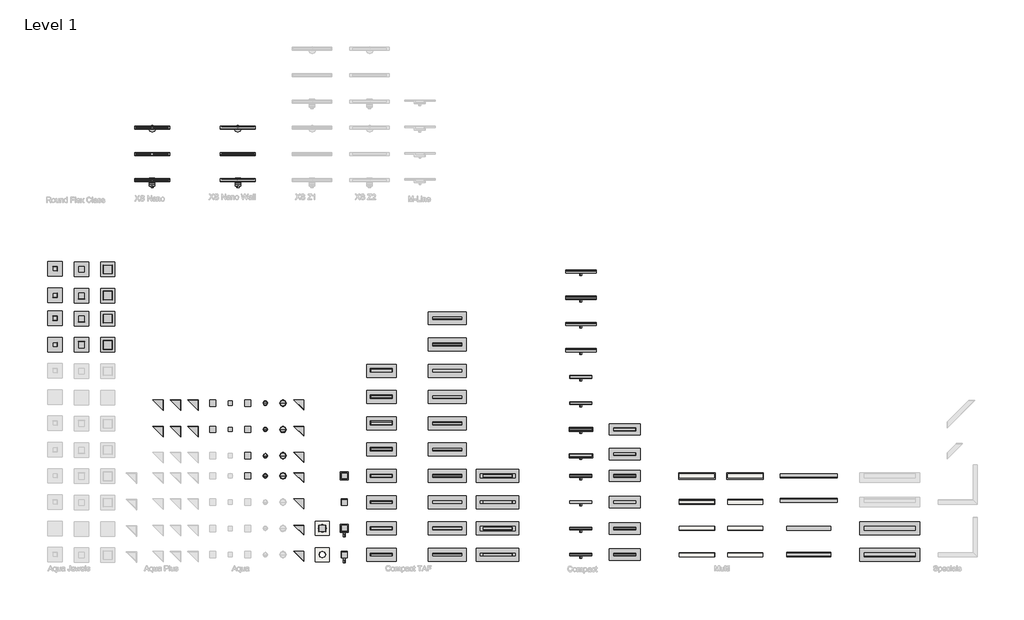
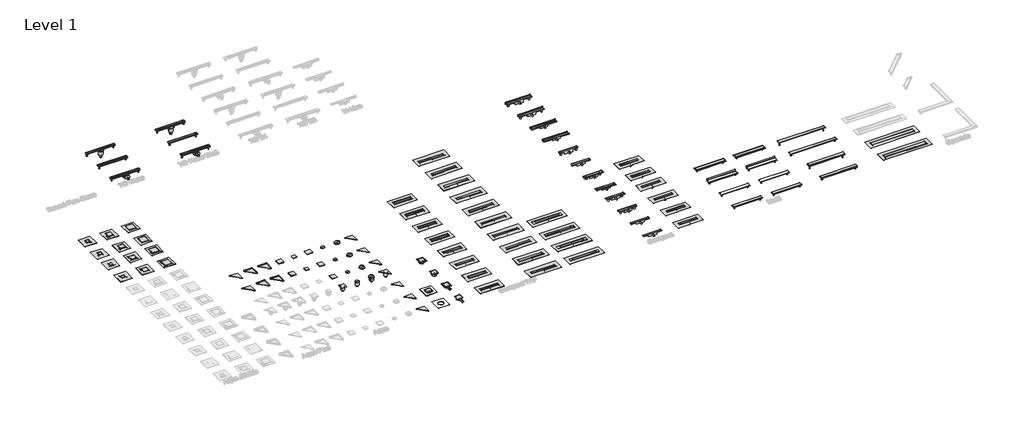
# One storey, part 2 of 23: 112 sanitary terminals, 18 coverings.
"""IFC4 building model written with IfcOpenShell, lengths in millimetres."""

from ifc_helpers import new_model, si_unit, origin, place, context, project, spatial, transform, mapped, element, save
from components import covering_949c216e, covering_52c8488e, covering_e9c5ec6c, covering_b1c8ad42, covering_8_tile_f43c0e9c, sanitary_terminal_2f80e022, sanitary_terminal_2ebfcd1c, sanitary_terminal_eb8b4586, sanitary_terminal_f8d560c6, sanitary_terminal_cf954fec, sanitary_terminal_c62dae5d, sanitary_terminal_9a77729b, sanitary_terminal_87b3114c, sanitary_terminal_e6825e24, sanitary_terminal_f435edd6, sanitary_terminal_ecf4810a, sanitary_terminal_20bd8035, sanitary_terminal_5c7f7aa6, sanitary_terminal_14ebe62b, sanitary_terminal_cd1ec674, sanitary_terminal_50c217ad, sanitary_terminal_e52f65bd, sanitary_terminal_b1b542f0, sanitary_terminal_1a364380, sanitary_terminal_6d434ef9, sanitary_terminal_b07f8d72, sanitary_terminal_18c5c034, sanitary_terminal_83d6f62a, sanitary_terminal_d9133679, sanitary_terminal_1823a797, sanitary_terminal_49c4bee3, compact_d3044acb, compact_a988ca50, compact_608fc20b, compact_45fd4abb, compact_89d7015a, compact_d6b970c3, compact_b74792c9, compact_6f6b42fc, compact_ff_9ca3e479, compact_ff_39878ad4, compact_ff_16e5568f, compact_ff_ca326670, compact_ff_tile_2c53a190, compact_ff_tile_d9a49791, compact_flange_e84be961, compact_flange_697ba35e, compact_taf_aa2868d5, compact_taf_09897acd, compact_taf_a320cd3e, compact_taf_2342890d, compact_taf_wall_cdf960c3, compact_taf_wall_d19b2d83, compact_taf_wall_0f2e0b1c, compact_taf_wall_d03a32f8, compact_tile_2c210a84, compact_tile_8fcec66e, compact_wall_94ad205f, compact_wall_42add6d5, compact_wall_7a272a64, compact_wall_831ec387, black_glass_10x10_94a9755f, black_glass_15x15_4ec12fde, black_glass_20x20_2d4f7b62, m2_trap_body_7347115e, multi_long_length_horizontal_outlet_low_40mm_4c622230, multi_taf_horizontal_outlet_low_40mm_1422f05b, multi_tile_horizontal_outlet_low_40mm_311f17a8, tile_10x10_58bf98e1, tile_15x15_8973f844, tile_20x20_2fca3c0a, xs_nano_9b7dcf74, xs_nano_wall_a90b67c6, xs_nano_wall_with_m2_vertical_outlet_9d345bf4, xs_nano_with_m2_vertical_outlet_db10e45d

model = new_model("IFC4")

# Units and contexts
model_context = context("Model", 3, world=origin())
ifc_project = project(units=[si_unit("LENGTHUNIT", "METRE", prefix="MILLI")], contexts=[model_context])

# Site, building, storey
site = spatial("IfcSite", under=ifc_project)
building = spatial("IfcBuilding", under=site)
storey = spatial("IfcBuildingStorey", under=building, Name="Level 1", Elevation=0.0)

# Coverings
placement = place(None, origin())
covering_shape = covering_949c216e(model_context)
element("IfcCovering", 1, ObjectType="Z_DO_NOT_USE_NLRS_PF_52_UN_Extension Set_Easydrain : NLRS_PLF_52_UN_Easy Drain verlengset_Easydrain", at=placement, inside=storey, context=model_context, shape_type="MappedRepresentation", body=[
    mapped(covering_shape, transform((33717.5, 7700.0, 0.0), x_axis=(1.0, 0.0, 0.0), y_axis=(0.0, 1.0, 0.0), z_axis=(0.0, 0.0, 1.0))),
])
element("IfcCovering", 2, ObjectType="Z_DO_NOT_USE_NLRS_PF_52_UN_Extension Set_Easydrain : NLRS_PLF_52_UN_Easy Drain verlengset_Easydrain", at=placement, inside=storey, context=model_context, shape_type="MappedRepresentation", body=[
    mapped(covering_shape, transform((33717.5, 8300.0, 0.0), x_axis=(1.0, 0.0, 0.0), y_axis=(0.0, 1.0, 0.0), z_axis=(0.0, 0.0, 1.0))),
])
element("IfcCovering", 3, ObjectType="Z_DO_NOT_USE_NLRS_PF_52_UN_Extension Set_Easydrain : NLRS_PLF_52_UN_Easy Drain verlengset_Easydrain", at=placement, inside=storey, context=model_context, shape_type="MappedRepresentation", body=[
    mapped(covering_shape, transform((33717.5, 8900.0, 0.0), x_axis=(1.0, 0.0, 0.0), y_axis=(0.0, 1.0, 0.0), z_axis=(0.0, 0.0, 1.0))),
])
element("IfcCovering", 4, ObjectType="Z_DO_NOT_USE_NLRS_PF_52_UN_Extension Set_Easydrain : NLRS_PLF_52_UN_Easy Drain verlengset_Easydrain", at=placement, inside=storey, context=model_context, shape_type="MappedRepresentation", body=[
    mapped(covering_shape, transform((33717.5, 9500.0, 0.0), x_axis=(1.0, 0.0, 0.0), y_axis=(0.0, 1.0, 0.0), z_axis=(0.0, 0.0, 1.0))),
])
covering_2_shape = covering_52c8488e(model_context)
element("IfcCovering", 5, ObjectType="Z_DO_NOT_USE_NLRS_PF_52_UN_Extension Set_Easydrain : NLRS_PLF_52_UN_Easy Drain verlengset_Easydrain", at=placement, inside=storey, context=model_context, shape_type="MappedRepresentation", body=[
    mapped(covering_2_shape, transform((33717.5, 10100.0, 0.0), x_axis=(1.0, 0.0, 0.0), y_axis=(0.0, 1.0, 0.0), z_axis=(0.0, 0.0, 1.0))),
])
element("IfcCovering", 6, ObjectType="Z_DO_NOT_USE_NLRS_PF_52_UN_Extension Set_Easydrain : NLRS_PLF_52_UN_Easy Drain verlengset_Easydrain", at=placement, inside=storey, context=model_context, shape_type="MappedRepresentation", body=[
    mapped(covering_2_shape, transform((33717.5, 10700.0, 0.0), x_axis=(1.0, 0.0, 0.0), y_axis=(0.0, 1.0, 0.0), z_axis=(0.0, 0.0, 1.0))),
])
element("IfcCovering", 7, ObjectType="Z_DO_NOT_USE_NLRS_PF_52_UN_Extension Set_Easydrain : NLRS_PLF_52_UN_Easy Drain verlengset_Easydrain", at=placement, inside=storey, context=model_context, shape_type="MappedRepresentation", body=[
    mapped(covering_2_shape, transform((33717.5, 11300.0, 0.0), x_axis=(1.0, 0.0, 0.0), y_axis=(0.0, 1.0, 0.0), z_axis=(0.0, 0.0, 1.0))),
])
element("IfcCovering", 8, ObjectType="Z_DO_NOT_USE_NLRS_PF_52_UN_Extension Set_Easydrain : NLRS_PLF_52_UN_Easy Drain verlengset_Easydrain", at=placement, inside=storey, context=model_context, shape_type="MappedRepresentation", body=[
    mapped(covering_2_shape, transform((33717.5, 11900.0, 0.0), x_axis=(1.0, 0.0, 0.0), y_axis=(0.0, 1.0, 0.0), z_axis=(0.0, 0.0, 1.0))),
])
covering_3_shape = covering_e9c5ec6c(model_context)
element("IfcCovering", 9, ObjectType="Z_DO_NOT_USE_NLRS_PF_52_UN_WPS Aqua Brilliant_Easydrain : Aqua Brilliant met tegelbakje", at=placement, inside=storey, context=model_context, shape_type="MappedRepresentation", body=[
    mapped(covering_3_shape, transform((32600.0, 8300.0, -15.0), x_axis=(1.0, 0.0, 0.0), y_axis=(0.0, 1.0, 0.0), z_axis=(0.0, 0.0, 1.0))),
])
element("IfcCovering", 10, ObjectType="Z_DO_NOT_USE_NLRS_PF_52_UN_WPS Aqua Brilliant_Easydrain : Aqua Brilliant met tegelbakje", at=placement, inside=storey, context=model_context, shape_type="MappedRepresentation", body=[
    mapped(covering_3_shape, transform((32600.0, 7700.0, -15.0), x_axis=(1.0, 0.0, 0.0), y_axis=(0.0, 1.0, 0.0), z_axis=(0.0, 0.0, 1.0))),
])
covering_4_shape = covering_b1c8ad42(model_context)
element("IfcCovering", 11, ObjectType="Z_DO_NOT_USE_NLRS_PF_52_UN_Multi Grate_Easydrain : 2 - Excenter", at=placement, inside=storey, context=model_context, shape_type="MappedRepresentation", body=[
    mapped(covering_4_shape, transform((41149.785592, 8300.0, 0.0), x_axis=(1.0, 0.0, 0.0), y_axis=(0.0, 1.0, 0.0), z_axis=(0.0, 0.0, 1.0))),
])
element("IfcCovering", 12, ObjectType="Z_DO_NOT_USE_NLRS_PF_52_UN_Multi Grate_Easydrain : 1 - Fixt", at=placement, inside=storey, context=model_context, shape_type="MappedRepresentation", body=[
    mapped(covering_4_shape, transform((41149.785592, 7700.0, 0.0), x_axis=(1.0, 0.0, 0.0), y_axis=(0.0, 1.0, 0.0), z_axis=(0.0, 0.0, 1.0))),
])
element("IfcCovering", 13, ObjectType="Z_DO_NOT_USE_NLRS_PF_52_UN_Multi Grate_Easydrain : 1 - Fixt", at=placement, inside=storey, context=model_context, shape_type="MappedRepresentation", body=[
    mapped(covering_4_shape, transform((42249.785592, 9500.0, 0.0), x_axis=(1.0, 0.0, 0.0), y_axis=(0.0, 1.0, 0.0), z_axis=(0.0, 0.0, 1.0))),
])
element("IfcCovering", 14, ObjectType="Z_DO_NOT_USE_NLRS_PF_52_UN_Multi Grate_Easydrain : 7 - Carré", at=placement, inside=storey, context=model_context, shape_type="MappedRepresentation", body=[
    mapped(covering_4_shape, transform((42249.785592, 8300.0, 0.0), x_axis=(1.0, 0.0, 0.0), y_axis=(0.0, 1.0, 0.0), z_axis=(0.0, 0.0, 1.0))),
])
element("IfcCovering", 15, ObjectType="Z_DO_NOT_USE_NLRS_PF_52_UN_Multi Grate_Easydrain : 3 - Outside", at=placement, inside=storey, context=model_context, shape_type="MappedRepresentation", body=[
    mapped(covering_4_shape, transform((41149.785592, 8900.0, 0.0), x_axis=(1.0, 0.0, 0.0), y_axis=(0.0, 1.0, 0.0), z_axis=(0.0, 0.0, 1.0))),
])
element("IfcCovering", 16, ObjectType="Z_DO_NOT_USE_NLRS_PF_52_UN_Multi Grate_Easydrain : 4 - Move", at=placement, inside=storey, context=model_context, shape_type="MappedRepresentation", body=[
    mapped(covering_4_shape, transform((41149.785592, 9500.0, 0.0), x_axis=(1.0, 0.0, 0.0), y_axis=(0.0, 1.0, 0.0), z_axis=(0.0, 0.0, 1.0))),
])
element("IfcCovering", 17, ObjectType="Z_DO_NOT_USE_NLRS_PF_52_UN_Multi Grate_Easydrain : 6 - Zero", at=placement, inside=storey, context=model_context, shape_type="MappedRepresentation", body=[
    mapped(covering_4_shape, transform((42249.785592, 7700.0, 0.0), x_axis=(1.0, 0.0, 0.0), y_axis=(0.0, 1.0, 0.0), z_axis=(0.0, 0.0, 1.0))),
])
covering_8_tile_shape = covering_8_tile_f43c0e9c(model_context)
element("IfcCovering", 18, ObjectType="Z_DO_NOT_USE_NLRS_PF_52_UN_Multi Grate_Easydrain : 8 - Tile", at=placement, inside=storey, context=model_context, shape_type="MappedRepresentation", body=[
    mapped(covering_8_tile_shape, transform((42249.785592, 8900.0, 0.0), x_axis=(1.0, 0.0, 0.0), y_axis=(0.0, 1.0, 0.0), z_axis=(0.0, 0.0, 1.0))),
])

# Sanitary terminals
sanitary_terminal_shape = sanitary_terminal_2f80e022(model_context)
element("IfcSanitaryTerminal", 19, ObjectType="NLRS_PF_52_UN_Aqua Delta_in_uitloop_Easydrain : Aqua Delta onderuitloop 50mm, zij-ingang 40mm", at=placement, inside=storey, context=model_context, shape_type="MappedRepresentation", body=[
    mapped(sanitary_terminal_shape, transform((32100.0, 10560.0, 0.0), x_axis=(1.0, 0.0, 0.0), y_axis=(0.0, 1.0, 0.0), z_axis=(0.0, 0.0, 1.0))),
])
element("IfcSanitaryTerminal", 20, ObjectType="NLRS_PF_52_UN_Aqua Delta_in_uitloop_Easydrain : Aqua Delta onderuitloop 50mm, zij-ingang 50mm", at=placement, inside=storey, context=model_context, shape_type="MappedRepresentation", body=[
    mapped(sanitary_terminal_shape, transform((32100.0, 11160.0, 0.0), x_axis=(1.0, 0.0, 0.0), y_axis=(0.0, 1.0, 0.0), z_axis=(0.0, 0.0, 1.0))),
])
element("IfcSanitaryTerminal", 21, ObjectType="NLRS_PF_52_UN_Aqua Delta_in_uitloop_Easydrain : Aqua Delta zijuitloop hoog 50mm, zij-ingang 40mm", at=placement, inside=storey, context=model_context, shape_type="MappedRepresentation", body=[
    mapped(sanitary_terminal_shape, transform((32100.0, 9960.0, 0.0), x_axis=(1.0, 0.0, 0.0), y_axis=(0.0, 1.0, 0.0), z_axis=(0.0, 0.0, 1.0))),
])
sanitary_terminal_2_shape = sanitary_terminal_2ebfcd1c(model_context)
element("IfcSanitaryTerminal", 22, ObjectType="NLRS_PF_52_UN_Aqua Plus Delta_in_uitloop_Easydrain : Aqua Plus Delta onderuitloop 50mm, zij-ingang 40mm", at=placement, inside=storey, context=model_context, shape_type="MappedRepresentation", body=[
    mapped(sanitary_terminal_2_shape, transform((28900.0, 10560.0, 0.0), x_axis=(1.0, 0.0, 0.0), y_axis=(0.0, 1.0, 0.0), z_axis=(0.0, 0.0, 1.0))),
])
element("IfcSanitaryTerminal", 23, ObjectType="NLRS_PF_52_UN_Aqua Plus Delta_in_uitloop_Easydrain : Aqua Plus Delta onderuitloop 50mm, zij-ingang 50mm", at=placement, inside=storey, context=model_context, shape_type="MappedRepresentation", body=[
    mapped(sanitary_terminal_2_shape, transform((28900.0, 11160.0, 0.0), x_axis=(1.0, 0.0, 0.0), y_axis=(0.0, 1.0, 0.0), z_axis=(0.0, 0.0, 1.0))),
])
sanitary_terminal_3_shape = sanitary_terminal_eb8b4586(model_context)
element("IfcSanitaryTerminal", 24, ObjectType="NLRS_PF_52_UN_Aqua Plus Quattro_in_uitloop_Easydrain : Aqua Plus Quattro onderuitloop 50mm, zij-ingang 40mm", at=placement, inside=storey, context=model_context, shape_type="MappedRepresentation", body=[
    mapped(sanitary_terminal_3_shape, transform((30100.0, 10560.0, 0.0), x_axis=(1.0, 0.0, 0.0), y_axis=(0.0, 1.0, 0.0), z_axis=(0.0, 0.0, 1.0))),
])
element("IfcSanitaryTerminal", 25, ObjectType="NLRS_PF_52_UN_Aqua Plus Quattro_in_uitloop_Easydrain : Aqua Plus Quattro onderuitloop 50mm, zij-ingang 50mm", at=placement, inside=storey, context=model_context, shape_type="MappedRepresentation", body=[
    mapped(sanitary_terminal_3_shape, transform((30100.0, 11160.0, 0.0), x_axis=(1.0, 0.0, 0.0), y_axis=(0.0, 1.0, 0.0), z_axis=(0.0, 0.0, 1.0))),
])
sanitary_terminal_4_shape = sanitary_terminal_f8d560c6(model_context)
element("IfcSanitaryTerminal", 26, ObjectType="NLRS_PF_52_UN_Aqua Quattro_in_uitloop_Easydrain : Aqua Quattro onderuitloop 50mm, zij-ingang 40mm", at=placement, inside=storey, context=model_context, shape_type="MappedRepresentation", body=[
    mapped(sanitary_terminal_4_shape, transform((30500.0, 10560.0, 0.0), x_axis=(1.0, 0.0, 0.0), y_axis=(0.0, 1.0, 0.0), z_axis=(0.0, 0.0, 1.0))),
])
element("IfcSanitaryTerminal", 27, ObjectType="NLRS_PF_52_UN_Aqua Quattro_in_uitloop_Easydrain : Aqua Quattro zijuitloop hoog 50mm, zij-ingang 40mm", at=placement, inside=storey, context=model_context, shape_type="MappedRepresentation", body=[
    mapped(sanitary_terminal_4_shape, transform((30500.0, 11160.0, 0.0), x_axis=(1.0, 0.0, 0.0), y_axis=(0.0, 1.0, 0.0), z_axis=(0.0, 0.0, 1.0))),
])
sanitary_terminal_5_shape = sanitary_terminal_cf954fec(model_context)
element("IfcSanitaryTerminal", 28, ObjectType="NLRS_PF_52_UN_Aqua Round_in_uitloop_Easydrain : Aqua Round onderuitloop 50mm, zij-ingang 40mm", at=placement, inside=storey, context=model_context, shape_type="MappedRepresentation", body=[
    mapped(sanitary_terminal_5_shape, transform((31300.0, 10560.0, 0.0), x_axis=(1.0, 0.0, 0.0), y_axis=(0.0, 1.0, 0.0), z_axis=(0.0, 0.0, 1.0))),
])
element("IfcSanitaryTerminal", 29, ObjectType="NLRS_PF_52_UN_Aqua Round_in_uitloop_Easydrain : Aqua Round onderuitloop 50mm, zij-ingang 50mm", at=placement, inside=storey, context=model_context, shape_type="MappedRepresentation", body=[
    mapped(sanitary_terminal_5_shape, transform((31300.0, 11160.0, 0.0), x_axis=(1.0, 0.0, 0.0), y_axis=(0.0, 1.0, 0.0), z_axis=(0.0, 0.0, 1.0))),
])
element("IfcSanitaryTerminal", 30, ObjectType="NLRS_PF_52_UN_Aqua Round_in_uitloop_Easydrain : Aqua Round zijuitloop hoog 50mm, zij-ingang 40mm", at=placement, inside=storey, context=model_context, shape_type="MappedRepresentation", body=[
    mapped(sanitary_terminal_5_shape, transform((31300.0, 9960.0, 0.0), x_axis=(1.0, 0.0, 0.0), y_axis=(0.0, 1.0, 0.0), z_axis=(0.0, 0.0, 1.0))),
])
sanitary_terminal_6_shape = sanitary_terminal_c62dae5d(model_context)
element("IfcSanitaryTerminal", 31, ObjectType="NLRS_PF_52_UN_Compact TAF Modulo Design_Easydrain : Compact TAF Modulo Design Z2", at=placement, inside=storey, context=model_context, shape_type="MappedRepresentation", body=[
    mapped(sanitary_terminal_6_shape, transform((36450.0, 7700.0, 0.0), x_axis=(1.0, 0.0, 0.0), y_axis=(0.0, 1.0, 0.0), z_axis=(0.0, 0.0, 1.0))),
])
sanitary_terminal_7_shape = sanitary_terminal_9a77729b(model_context)
element("IfcSanitaryTerminal", 32, ObjectType="NLRS_PF_52_UN_Compact TAF Modulo Design_Easydrain : Compact TAF Modulo Design Z4", at=placement, inside=storey, context=model_context, shape_type="MappedRepresentation", body=[
    mapped(sanitary_terminal_7_shape, transform((36450.0, 8300.0, 0.0), x_axis=(1.0, 0.0, 0.0), y_axis=(0.0, 1.0, 0.0), z_axis=(0.0, 0.0, 1.0))),
])
sanitary_terminal_8_shape = sanitary_terminal_87b3114c(model_context)
element("IfcSanitaryTerminal", 33, ObjectType="NLRS_PF_52_UN_Compact TAF Modulo_Easydrain : Compact TAF Modulo Classic", at=placement, inside=storey, context=model_context, shape_type="MappedRepresentation", body=[
    mapped(sanitary_terminal_8_shape, transform((35350.0, 7700.0, 0.0), x_axis=(1.0, 0.0, 0.0), y_axis=(0.0, 1.0, 0.0), z_axis=(0.0, 0.0, 1.0))),
])
element("IfcSanitaryTerminal", 34, ObjectType="NLRS_PF_52_UN_Compact TAF Modulo_Easydrain : Compact TAF Modulo Zero+ geborsteld RVS", at=placement, inside=storey, context=model_context, shape_type="MappedRepresentation", body=[
    mapped(sanitary_terminal_8_shape, transform((35350.0, 9500.0, 0.0), x_axis=(1.0, 0.0, 0.0), y_axis=(0.0, 1.0, 0.0), z_axis=(0.0, 0.0, 1.0))),
])
element("IfcSanitaryTerminal", 35, ObjectType="NLRS_PF_52_UN_Compact TAF Modulo_Easydrain : Compact TAF Modulo Zero+ verchroomd RVS", at=placement, inside=storey, context=model_context, shape_type="MappedRepresentation", body=[
    mapped(sanitary_terminal_8_shape, transform((35350.0, 10100.0, 0.0), x_axis=(1.0, 0.0, 0.0), y_axis=(0.0, 1.0, 0.0), z_axis=(0.0, 0.0, 1.0))),
])
sanitary_terminal_9_shape = sanitary_terminal_e6825e24(model_context)
element("IfcSanitaryTerminal", 36, ObjectType="NLRS_PF_52_UN_Compact TAF Modulo_Easydrain : Compact TAF Modulo Glas zwart glans", at=placement, inside=storey, context=model_context, shape_type="MappedRepresentation", body=[
    mapped(sanitary_terminal_9_shape, transform((35350.0, 8900.0, 0.0), x_axis=(1.0, 0.0, 0.0), y_axis=(0.0, 1.0, 0.0), z_axis=(0.0, 0.0, 1.0))),
])
element("IfcSanitaryTerminal", 37, ObjectType="NLRS_PF_52_UN_Compact TAF Modulo_Easydrain : Compact TAF Modulo Glas wit glans", at=placement, inside=storey, context=model_context, shape_type="MappedRepresentation", body=[
    mapped(sanitary_terminal_9_shape, transform((35350.0, 8300.0, 0.0), x_axis=(1.0, 0.0, 0.0), y_axis=(0.0, 1.0, 0.0), z_axis=(0.0, 0.0, 1.0))),
])
sanitary_terminal_10_shape = sanitary_terminal_f435edd6(model_context)
element("IfcSanitaryTerminal", 38, ObjectType="NLRS_PF_52_UN_Multi Long Length in_uitloop_Easydrain : Multi Long Length zijuitloop hoog 50mm, zij-ingang 40mm", at=placement, inside=storey, context=model_context, shape_type="MappedRepresentation", body=[
    mapped(sanitary_terminal_10_shape, transform((43299.785592, 9500.0, 0.0), x_axis=(1.0, 0.0, 0.0), y_axis=(0.0, 1.0, 0.0), z_axis=(0.0, 0.0, 1.0))),
])
sanitary_terminal_11_shape = sanitary_terminal_ecf4810a(model_context)
element("IfcSanitaryTerminal", 39, ObjectType="NLRS_PF_52_UN_XS Nano Wall_Easydrain : XS Nano Wall with M2 flat siphon", at=placement, inside=storey, context=model_context, shape_type="MappedRepresentation", body=[
    mapped(sanitary_terminal_11_shape, transform((30675.891218, 16850.0, 0.0), x_axis=(1.0, 0.0, 0.0), y_axis=(0.0, 1.0, 0.0), z_axis=(0.0, 0.0, 1.0))),
])
sanitary_terminal_12_shape = sanitary_terminal_20bd8035(model_context)
element("IfcSanitaryTerminal", 40, ObjectType="NLRS_PF_52_UN_XS Nano_Easydrain : XS Nano with M2 flat siphon", at=placement, inside=storey, context=model_context, shape_type="MappedRepresentation", body=[
    mapped(sanitary_terminal_12_shape, transform((28716.5225017, 16850.0, 0.0), x_axis=(1.0, 0.0, 0.0), y_axis=(0.0, 1.0, 0.0), z_axis=(0.0, 0.0, 1.0))),
])
sanitary_terminal_13_shape = sanitary_terminal_5c7f7aa6(model_context)
element("IfcSanitaryTerminal", 41, ObjectType="NLRS_PF_52_UN_Aqua Plus Delta_in_uitloop_Easydrain : Aqua Plus Delta onderuitloop 50mm, zij-ingang 40mm", at=placement, inside=storey, context=model_context, shape_type="MappedRepresentation", body=[
    mapped(sanitary_terminal_13_shape, transform((29300.0, 10560.0, 0.0), x_axis=(1.0, 0.0, 0.0), y_axis=(0.0, 1.0, 0.0), z_axis=(0.0, 0.0, 1.0))),
])
element("IfcSanitaryTerminal", 42, ObjectType="NLRS_PF_52_UN_Aqua Plus Delta_in_uitloop_Easydrain : Aqua Plus Delta onderuitloop 50mm, zij-ingang 50mm", at=placement, inside=storey, context=model_context, shape_type="MappedRepresentation", body=[
    mapped(sanitary_terminal_13_shape, transform((29300.0, 11160.0, 0.0), x_axis=(1.0, 0.0, 0.0), y_axis=(0.0, 1.0, 0.0), z_axis=(0.0, 0.0, 1.0))),
])
element("IfcSanitaryTerminal", 43, ObjectType="NLRS_PF_52_UN_Aqua Plus Delta_in_uitloop_Easydrain : Aqua Plus Delta onderuitloop 50mm, zij-ingang 40mm", at=placement, inside=storey, context=model_context, shape_type="MappedRepresentation", body=[
    mapped(sanitary_terminal_13_shape, transform((29700.0, 10560.0, 0.0), x_axis=(1.0, 0.0, 0.0), y_axis=(0.0, 1.0, 0.0), z_axis=(0.0, 0.0, 1.0))),
])
element("IfcSanitaryTerminal", 44, ObjectType="NLRS_PF_52_UN_Aqua Plus Delta_in_uitloop_Easydrain : Aqua Plus Delta onderuitloop 50mm, zij-ingang 50mm", at=placement, inside=storey, context=model_context, shape_type="MappedRepresentation", body=[
    mapped(sanitary_terminal_13_shape, transform((29700.0, 11160.0, 0.0), x_axis=(1.0, 0.0, 0.0), y_axis=(0.0, 1.0, 0.0), z_axis=(0.0, 0.0, 1.0))),
])
sanitary_terminal_14_shape = sanitary_terminal_14ebe62b(model_context)
element("IfcSanitaryTerminal", 45, ObjectType="NLRS_PF_52_UN_Aqua Quattro_in_uitloop_Easydrain : Aqua Quattro zijuitloop hoog 50mm, zij-ingang 40mm", at=placement, inside=storey, context=model_context, shape_type="MappedRepresentation", body=[
    mapped(sanitary_terminal_14_shape, transform((30900.0, 9960.0, 0.0), x_axis=(1.0, 0.0, 0.0), y_axis=(0.0, 1.0, 0.0), z_axis=(0.0, 0.0, 1.0))),
])
element("IfcSanitaryTerminal", 46, ObjectType="NLRS_PF_52_UN_Aqua Quattro_in_uitloop_Easydrain : Aqua Quattro zijuitloop hoog 50mm, zij-ingang 40mm", at=placement, inside=storey, context=model_context, shape_type="MappedRepresentation", body=[
    mapped(sanitary_terminal_14_shape, transform((30900.0, 11160.0, 0.0), x_axis=(1.0, 0.0, 0.0), y_axis=(0.0, 1.0, 0.0), z_axis=(0.0, 0.0, 1.0))),
])
element("IfcSanitaryTerminal", 47, ObjectType="NLRS_PF_52_UN_Aqua Quattro_in_uitloop_Easydrain : Aqua Quattro onderuitloop 50mm, zij-ingang 40mm", at=placement, inside=storey, context=model_context, shape_type="MappedRepresentation", body=[
    mapped(sanitary_terminal_14_shape, transform((30900.0, 10560.0, 0.0), x_axis=(1.0, 0.0, 0.0), y_axis=(0.0, 1.0, 0.0), z_axis=(0.0, 0.0, 1.0))),
])
sanitary_terminal_15_shape = sanitary_terminal_cd1ec674(model_context)
element("IfcSanitaryTerminal", 48, ObjectType="NLRS_PF_52_UN_Aqua Round_in_uitloop_Easydrain : Aqua Round zijuitloop hoog 50mm, zij-ingang 40mm", at=placement, inside=storey, context=model_context, shape_type="MappedRepresentation", body=[
    mapped(sanitary_terminal_15_shape, transform((31700.0, 9960.0, 0.0), x_axis=(1.0, 0.0, 0.0), y_axis=(0.0, 1.0, 0.0), z_axis=(0.0, 0.0, 1.0))),
])
element("IfcSanitaryTerminal", 49, ObjectType="NLRS_PF_52_UN_Aqua Round_in_uitloop_Easydrain : Aqua Round onderuitloop 50mm, zij-ingang 50mm", at=placement, inside=storey, context=model_context, shape_type="MappedRepresentation", body=[
    mapped(sanitary_terminal_15_shape, transform((31700.0, 11160.0, 0.0), x_axis=(1.0, 0.0, 0.0), y_axis=(0.0, 1.0, 0.0), z_axis=(0.0, 0.0, 1.0))),
])
element("IfcSanitaryTerminal", 50, ObjectType="NLRS_PF_52_UN_Aqua Round_in_uitloop_Easydrain : Aqua Round onderuitloop 50mm, zij-ingang 40mm", at=placement, inside=storey, context=model_context, shape_type="MappedRepresentation", body=[
    mapped(sanitary_terminal_15_shape, transform((31700.0, 10560.0, 0.0), x_axis=(1.0, 0.0, 0.0), y_axis=(0.0, 1.0, 0.0), z_axis=(0.0, 0.0, 1.0))),
])
sanitary_terminal_16_shape = sanitary_terminal_50c217ad(model_context)
element("IfcSanitaryTerminal", 51, ObjectType="NLRS_PF_52_UN_Compact TAF Modulo Design_Easydrain : Compact TAF Modulo Design Z2", at=placement, inside=storey, context=model_context, shape_type="MappedRepresentation", body=[
    mapped(sanitary_terminal_16_shape, transform((36450.0, 8900.0, 0.0), x_axis=(1.0, 0.0, 0.0), y_axis=(0.0, 1.0, 0.0), z_axis=(0.0, 0.0, 1.0))),
])
sanitary_terminal_17_shape = sanitary_terminal_e52f65bd(model_context)
element("IfcSanitaryTerminal", 52, ObjectType="NLRS_PF_52_UN_Compact TAF Modulo Design_Easydrain : Compact TAF Modulo Design Z4", at=placement, inside=storey, context=model_context, shape_type="MappedRepresentation", body=[
    mapped(sanitary_terminal_17_shape, transform((36450.0, 9500.0, 0.0), x_axis=(1.0, 0.0, 0.0), y_axis=(0.0, 1.0, 0.0), z_axis=(0.0, 0.0, 1.0))),
])
sanitary_terminal_18_shape = sanitary_terminal_b1b542f0(model_context)
element("IfcSanitaryTerminal", 53, ObjectType="NLRS_PF_52_UN_Compact TAF Modulo_Easydrain : Compact TAF Modulo Classic", at=placement, inside=storey, context=model_context, shape_type="MappedRepresentation", body=[
    mapped(sanitary_terminal_18_shape, transform((35350.0, 10700.0, 0.0), x_axis=(1.0, 0.0, 0.0), y_axis=(0.0, 1.0, 0.0), z_axis=(0.0, 0.0, 1.0))),
])
sanitary_terminal_19_shape = sanitary_terminal_1a364380(model_context)
element("IfcSanitaryTerminal", 54, ObjectType="NLRS_PF_52_UN_Compact TAF Modulo_Easydrain : Compact TAF Modulo Glas wit glans", at=placement, inside=storey, context=model_context, shape_type="MappedRepresentation", body=[
    mapped(sanitary_terminal_19_shape, transform((35350.0, 11300.0, 0.0), x_axis=(1.0, 0.0, 0.0), y_axis=(0.0, 1.0, 0.0), z_axis=(0.0, 0.0, 1.0))),
])
element("IfcSanitaryTerminal", 55, ObjectType="NLRS_PF_52_UN_Compact TAF Modulo_Easydrain : Compact TAF Modulo Glas zwart glans", at=placement, inside=storey, context=model_context, shape_type="MappedRepresentation", body=[
    mapped(sanitary_terminal_19_shape, transform((35350.0, 11900.0, 0.0), x_axis=(1.0, 0.0, 0.0), y_axis=(0.0, 1.0, 0.0), z_axis=(0.0, 0.0, 1.0))),
])
element("IfcSanitaryTerminal", 56, ObjectType="NLRS_PF_52_UN_Compact TAF Modulo_Easydrain : Compact TAF Modulo Zero+ geborsteld RVS", at=placement, inside=storey, context=model_context, shape_type="MappedRepresentation", body=[
    mapped(sanitary_terminal_18_shape, transform((35350.0, 12500.0, 0.0), x_axis=(1.0, 0.0, 0.0), y_axis=(0.0, 1.0, 0.0), z_axis=(0.0, 0.0, 1.0))),
])
element("IfcSanitaryTerminal", 57, ObjectType="NLRS_PF_52_UN_Compact TAF Modulo_Easydrain : Compact TAF Modulo Zero+ verchroomd RVS", at=placement, inside=storey, context=model_context, shape_type="MappedRepresentation", body=[
    mapped(sanitary_terminal_18_shape, transform((35350.0, 13100.0, 0.0), x_axis=(1.0, 0.0, 0.0), y_axis=(0.0, 1.0, 0.0), z_axis=(0.0, 0.0, 1.0))),
])
sanitary_terminal_20_shape = sanitary_terminal_6d434ef9(model_context)
element("IfcSanitaryTerminal", 58, ObjectType="NLRS_PF_52_UN_Multi in_uitloop_Easydrain : Multi zijuitloop hoog 50mm, zij-ingang 40mm", at=placement, inside=storey, context=model_context, shape_type="MappedRepresentation", body=[
    mapped(sanitary_terminal_20_shape, transform((42099.785592, 7700.0, 0.0), x_axis=(1.0, 0.0, 0.0), y_axis=(0.0, 1.0, 0.0), z_axis=(0.0, 0.0, 1.0))),
])
element("IfcSanitaryTerminal", 59, ObjectType="NLRS_PF_52_UN_Multi in_uitloop_Easydrain : Multi zijuitloop hoog 50mm, zij-ingang 40mm", at=placement, inside=storey, context=model_context, shape_type="MappedRepresentation", body=[
    mapped(sanitary_terminal_20_shape, transform((42099.785592, 8300.0, 0.0), x_axis=(1.0, 0.0, 0.0), y_axis=(0.0, 1.0, 0.0), z_axis=(0.0, 0.0, 1.0))),
])
sanitary_terminal_21_shape = sanitary_terminal_b07f8d72(model_context)
element("IfcSanitaryTerminal", 60, ObjectType="NLRS_PF_52_UN_Multi in_uitloop_Easydrain : Multi zijuitloop hoog 50mm, zij-ingang 40mm", at=placement, inside=storey, context=model_context, shape_type="MappedRepresentation", body=[
    mapped(sanitary_terminal_21_shape, transform((42099.785592, 8900.0, 0.0), x_axis=(1.0, 0.0, 0.0), y_axis=(0.0, 1.0, 0.0), z_axis=(0.0, 0.0, 1.0))),
])
sanitary_terminal_22_shape = sanitary_terminal_18c5c034(model_context)
element("IfcSanitaryTerminal", 61, ObjectType="NLRS_PF_52_UN_Multi in_uitloop_Easydrain : Multi zijuitloop hoog 50mm, zij-ingang 40mm", at=placement, inside=storey, context=model_context, shape_type="MappedRepresentation", body=[
    mapped(sanitary_terminal_22_shape, transform((42099.785592, 9500.0, 0.0), x_axis=(1.0, 0.0, 0.0), y_axis=(0.0, 1.0, 0.0), z_axis=(0.0, 0.0, 1.0))),
])
sanitary_terminal_23_shape = sanitary_terminal_83d6f62a(model_context)
element("IfcSanitaryTerminal", 62, ObjectType="NLRS_PF_52_UN_Multi TAF in_uitloop_Easydrain : Multi TAF zijuitloop hoog 50mm, zij-ingang 40mm", at=placement, inside=storey, context=model_context, shape_type="MappedRepresentation", body=[
    mapped(sanitary_terminal_23_shape, transform((45199.785592, 8300.0, 0.0), x_axis=(1.0, 0.0, 0.0), y_axis=(0.0, 1.0, 0.0), z_axis=(0.0, 0.0, 1.0))),
])
sanitary_terminal_24_shape = sanitary_terminal_d9133679(model_context)
element("IfcSanitaryTerminal", 63, ObjectType="NLRS_PF_52_UN_Multi Tile in_uitloop_Easydrain : Multi Tile zijuitloop hoog 50mm, zij-ingang 40mm", at=placement, inside=storey, context=model_context, shape_type="MappedRepresentation", body=[
    mapped(sanitary_terminal_24_shape, transform((43449.785592, 8300.0, 0.0), x_axis=(1.0, 0.0, 0.0), y_axis=(0.0, 1.0, 0.0), z_axis=(0.0, 0.0, 1.0))),
])
sanitary_terminal_25_shape = sanitary_terminal_1823a797(model_context)
element("IfcSanitaryTerminal", 64, ObjectType="NLRS_PF_52_UN_Aqua Brilliant_Easydrain : Brilliant onderuitloop 50mm", at=placement, inside=storey, context=model_context, shape_type="MappedRepresentation", body=[
    mapped(sanitary_terminal_25_shape, transform((32600.0, 8300.0, 0.0), x_axis=(1.0, 0.0, 0.0), y_axis=(0.0, 1.0, 0.0), z_axis=(0.0, 0.0, 1.0))),
])
sanitary_terminal_26_shape = sanitary_terminal_49c4bee3(model_context)
element("IfcSanitaryTerminal", 65, ObjectType="Z_DO_NOT_USE_NLRS_PF_52_UN_Multi sifon uitloop_Easydrain : onderuitloop 50mm", at=placement, inside=storey, context=model_context, shape_type="MappedRepresentation", body=[
    mapped(sanitary_terminal_26_shape, transform((32100.0, 9500.0, -14.0), x_axis=(1.0, 0.0, 0.0), y_axis=(0.0, 1.0, 0.0), z_axis=(0.0, 0.0, 1.0))),
])
element("IfcSanitaryTerminal", 66, ObjectType="Z_DO_NOT_USE_NLRS_PF_52_UN_Multi sifon uitloop_Easydrain : onderuitloop 50mm", at=placement, inside=storey, context=model_context, shape_type="MappedRepresentation", body=[
    mapped(sanitary_terminal_26_shape, transform((30900.0, 9500.0, -11.0), x_axis=(1.0, 0.0, 0.0), y_axis=(0.0, 1.0, 0.0), z_axis=(0.0, 0.0, 1.0))),
])
element("IfcSanitaryTerminal", 67, ObjectType="Z_DO_NOT_USE_NLRS_PF_52_UN_Multi sifon uitloop_Easydrain : onderuitloop 50mm", at=placement, inside=storey, context=model_context, shape_type="MappedRepresentation", body=[
    mapped(sanitary_terminal_26_shape, transform((31300.0, 9500.0, -11.0), x_axis=(1.0, 0.0, 0.0), y_axis=(0.0, 1.0, 0.0), z_axis=(0.0, 0.0, 1.0))),
])
element("IfcSanitaryTerminal", 68, ObjectType="Z_DO_NOT_USE_NLRS_PF_52_UN_Multi sifon uitloop_Easydrain : onderuitloop 50mm", at=placement, inside=storey, context=model_context, shape_type="MappedRepresentation", body=[
    mapped(sanitary_terminal_26_shape, transform((31700.0, 9500.0, -18.0), x_axis=(1.0, 0.0, 0.0), y_axis=(0.0, 1.0, 0.0), z_axis=(0.0, 0.0, 1.0))),
])
element("IfcSanitaryTerminal", 69, ObjectType="NLRS_PF_52_UN_Aqua Delta_uitloop_Easydrain : Aqua Delta horizontal outlet high 50mm", at=placement, inside=storey, context=model_context, shape_type="MappedRepresentation", body=[
    mapped(sanitary_terminal_shape, transform((32100.0, 8900.0, 0.0), x_axis=(1.0, 0.0, 0.0), y_axis=(0.0, 1.0, 0.0), z_axis=(0.0, 0.0, 1.0))),
])
element("IfcSanitaryTerminal", 70, ObjectType="NLRS_PF_52_UN_Aqua Delta_uitloop_Easydrain : Aqua Delta horizontal outlet low 40mm", at=placement, inside=storey, context=model_context, shape_type="MappedRepresentation", body=[
    mapped(sanitary_terminal_shape, transform((32100.0, 7700.0, 0.0), x_axis=(1.0, 0.0, 0.0), y_axis=(0.0, 1.0, 0.0), z_axis=(0.0, 0.0, 1.0))),
])
element("IfcSanitaryTerminal", 71, ObjectType="NLRS_PF_52_UN_Aqua Delta_uitloop_Easydrain : Aqua Delta horizontal outlet low 50mm", at=placement, inside=storey, context=model_context, shape_type="MappedRepresentation", body=[
    mapped(sanitary_terminal_shape, transform((32100.0, 8300.0, 0.0), x_axis=(1.0, 0.0, 0.0), y_axis=(0.0, 1.0, 0.0), z_axis=(0.0, 0.0, 1.0))),
])
element("IfcSanitaryTerminal", 72, ObjectType="NLRS_PF_52_UN_Aqua Delta_uitloop_Easydrain : Aqua Delta vertical outlet 50mm", at=placement, inside=storey, context=model_context, shape_type="MappedRepresentation", body=[
    mapped(sanitary_terminal_shape, transform((32100.0, 9500.0, 0.0), x_axis=(1.0, 0.0, 0.0), y_axis=(0.0, 1.0, 0.0), z_axis=(0.0, 0.0, 1.0))),
])
element("IfcSanitaryTerminal", 73, ObjectType="NLRS_PF_52_UN_Aqua Quattro_uitloop_Easydrain : Aqua Quattro Vertical Outlet 50mm", at=placement, inside=storey, context=model_context, shape_type="MappedRepresentation", body=[
    mapped(sanitary_terminal_14_shape, transform((30900.0, 9500.0, 0.0), x_axis=(1.0, 0.0, 0.0), y_axis=(0.0, 1.0, 0.0), z_axis=(0.0, 0.0, 1.0))),
])
element("IfcSanitaryTerminal", 74, ObjectType="NLRS_PF_52_UN_Aqua Round_uitloop_Easydrain : Aqua Round Vertical Outlet 50mm", at=placement, inside=storey, context=model_context, shape_type="MappedRepresentation", body=[
    mapped(sanitary_terminal_5_shape, transform((31300.0, 9500.0, 0.0), x_axis=(1.0, 0.0, 0.0), y_axis=(0.0, 1.0, 0.0), z_axis=(0.0, 0.0, 1.0))),
])
element("IfcSanitaryTerminal", 75, ObjectType="NLRS_PF_52_UN_Aqua Round_uitloop_Easydrain : Aqua Round Vertical Outlet 50mm", at=placement, inside=storey, context=model_context, shape_type="MappedRepresentation", body=[
    mapped(sanitary_terminal_15_shape, transform((31700.0, 9500.0, 0.0), x_axis=(1.0, 0.0, 0.0), y_axis=(0.0, 1.0, 0.0), z_axis=(0.0, 0.0, 1.0))),
])
compact_shape = compact_d3044acb(model_context)
element("IfcSanitaryTerminal", 76, ObjectType="NLRS_PF_52_UN_Aqua Compact_Easydrain : Compact", at=placement, inside=storey, context=model_context, shape_type="MappedRepresentation", body=[
    mapped(compact_shape, transform((33100.0, 7700.0, 0.0), x_axis=(1.0, 0.0, 0.0), y_axis=(0.0, 1.0, 0.0), z_axis=(0.0, 0.0, 1.0))),
])
compact_2_shape = compact_a988ca50(model_context)
element("IfcSanitaryTerminal", 77, ObjectType="NLRS_PF_52_UN_Compact_Easydrain : Compact", at=placement, inside=storey, context=model_context, shape_type="MappedRepresentation", body=[
    mapped(compact_2_shape, transform((38499.785592, 7700.0, 0.0), x_axis=(1.0, 0.0, 0.0), y_axis=(0.0, 1.0, 0.0), z_axis=(0.0, 0.0, 1.0))),
])
compact_3_shape = compact_608fc20b(model_context)
element("IfcSanitaryTerminal", 78, ObjectType="NLRS_PF_52_UN_Compact_Easydrain : Compact", at=placement, inside=storey, context=model_context, shape_type="MappedRepresentation", body=[
    mapped(compact_3_shape, transform((38499.785592, 8300.0, 0.0), x_axis=(1.0, 0.0, 0.0), y_axis=(0.0, 1.0, 0.0), z_axis=(0.0, 0.0, 1.0))),
])
compact_4_shape = compact_45fd4abb(model_context)
element("IfcSanitaryTerminal", 79, ObjectType="NLRS_PF_52_UN_Compact_Easydrain : Compact", at=placement, inside=storey, context=model_context, shape_type="MappedRepresentation", body=[
    mapped(compact_4_shape, transform((38499.785592, 8900.0, 0.0), x_axis=(1.0, 0.0, 0.0), y_axis=(0.0, 1.0, 0.0), z_axis=(0.0, 0.0, 1.0))),
])
compact_5_shape = compact_89d7015a(model_context)
element("IfcSanitaryTerminal", 80, ObjectType="NLRS_PF_52_UN_Compact_Easydrain : Compact", at=placement, inside=storey, context=model_context, shape_type="MappedRepresentation", body=[
    mapped(compact_5_shape, transform((38499.785592, 9500.0, 0.0), x_axis=(1.0, 0.0, 0.0), y_axis=(0.0, 1.0, 0.0), z_axis=(0.0, 0.0, 1.0))),
])
compact_6_shape = compact_d6b970c3(model_context)
element("IfcSanitaryTerminal", 81, ObjectType="NLRS_PF_52_UN_Aqua Compact_Easydrain : Compact", at=placement, inside=storey, context=model_context, shape_type="MappedRepresentation", body=[
    mapped(compact_6_shape, transform((33100.0, 8300.0, 0.0), x_axis=(1.0, 0.0, 0.0), y_axis=(0.0, 1.0, 0.0), z_axis=(0.0, 0.0, 1.0))),
])
compact_7_shape = compact_b74792c9(model_context)
element("IfcSanitaryTerminal", 82, ObjectType="NLRS_PF_52_UN_Aqua Compact_Easydrain : Compact", at=placement, inside=storey, context=model_context, shape_type="MappedRepresentation", body=[
    mapped(compact_7_shape, transform((33100.0, 8900.0, 0.0), x_axis=(1.0, 0.0, 0.0), y_axis=(0.0, 1.0, 0.0), z_axis=(0.0, 0.0, 1.0))),
])
compact_8_shape = compact_6f6b42fc(model_context)
element("IfcSanitaryTerminal", 83, ObjectType="NLRS_PF_52_UN_Aqua Compact_Easydrain : Compact", at=placement, inside=storey, context=model_context, shape_type="MappedRepresentation", body=[
    mapped(compact_8_shape, transform((33100.0, 9500.0, 0.0), x_axis=(1.0, 0.0, 0.0), y_axis=(0.0, 1.0, 0.0), z_axis=(0.0, 0.0, 1.0))),
])
compact_ff_shape = compact_ff_9ca3e479(model_context)
element("IfcSanitaryTerminal", 84, ObjectType="NLRS_PF_52_UN_Compact_Easydrain : Compact FF", at=placement, inside=storey, context=model_context, shape_type="MappedRepresentation", body=[
    mapped(compact_ff_shape, transform((39499.785592, 7700.0, 0.0), x_axis=(1.0, 0.0, 0.0), y_axis=(0.0, 1.0, 0.0), z_axis=(0.0, 0.0, 1.0))),
])
compact_ff_2_shape = compact_ff_39878ad4(model_context)
element("IfcSanitaryTerminal", 85, ObjectType="NLRS_PF_52_UN_Compact_Easydrain : Compact FF", at=placement, inside=storey, context=model_context, shape_type="MappedRepresentation", body=[
    mapped(compact_ff_2_shape, transform((39499.785592, 8300.0, 0.0), x_axis=(1.0, 0.0, 0.0), y_axis=(0.0, 1.0, 0.0), z_axis=(0.0, 0.0, 1.0))),
])
compact_ff_3_shape = compact_ff_16e5568f(model_context)
element("IfcSanitaryTerminal", 86, ObjectType="NLRS_PF_52_UN_Compact_Easydrain : Compact FF", at=placement, inside=storey, context=model_context, shape_type="MappedRepresentation", body=[
    mapped(compact_ff_3_shape, transform((39499.785592, 8900.0, 0.0), x_axis=(1.0, 0.0, 0.0), y_axis=(0.0, 1.0, 0.0), z_axis=(0.0, 0.0, 1.0))),
])
compact_ff_4_shape = compact_ff_ca326670(model_context)
element("IfcSanitaryTerminal", 87, ObjectType="NLRS_PF_52_UN_Compact_Easydrain : Compact FF", at=placement, inside=storey, context=model_context, shape_type="MappedRepresentation", body=[
    mapped(compact_ff_4_shape, transform((39499.785592, 9500.0, 0.0), x_axis=(1.0, 0.0, 0.0), y_axis=(0.0, 1.0, 0.0), z_axis=(0.0, 0.0, 1.0))),
])
compact_ff_tile_shape = compact_ff_tile_2c53a190(model_context)
element("IfcSanitaryTerminal", 88, ObjectType="NLRS_PF_52_UN_Compact Tile_Easydrain : Compact FF Tile", at=placement, inside=storey, context=model_context, shape_type="MappedRepresentation", body=[
    mapped(compact_ff_tile_shape, transform((39499.785592, 10560.0, 0.0), x_axis=(1.0, 0.0, 0.0), y_axis=(0.0, 1.0, 0.0), z_axis=(0.0, 0.0, 1.0))),
])
compact_ff_tile_2_shape = compact_ff_tile_d9a49791(model_context)
element("IfcSanitaryTerminal", 89, ObjectType="NLRS_PF_52_UN_Compact Tile_Easydrain : Compact FF Tile", at=placement, inside=storey, context=model_context, shape_type="MappedRepresentation", body=[
    mapped(compact_ff_tile_2_shape, transform((39499.785592, 10000.0, 0.0), x_axis=(1.0, 0.0, 0.0), y_axis=(0.0, 1.0, 0.0), z_axis=(0.0, 0.0, 1.0))),
])
compact_flange_shape = compact_flange_e84be961(model_context)
element("IfcSanitaryTerminal", 90, ObjectType="NLRS_PF_52_UN_Compact_Easydrain : Compact Flange", at=placement, inside=storey, context=model_context, shape_type="MappedRepresentation", body=[
    mapped(compact_flange_shape, transform((38499.785592, 9960.0, 0.0), x_axis=(1.0, 0.0, 0.0), y_axis=(0.0, 1.0, 0.0), z_axis=(0.0, 0.0, 1.0))),
])
compact_flange_2_shape = compact_flange_697ba35e(model_context)
element("IfcSanitaryTerminal", 91, ObjectType="NLRS_PF_52_UN_Compact_Easydrain : Compact Flange", at=placement, inside=storey, context=model_context, shape_type="MappedRepresentation", body=[
    mapped(compact_flange_2_shape, transform((38499.785592, 10560.0, 0.0), x_axis=(1.0, 0.0, 0.0), y_axis=(0.0, 1.0, 0.0), z_axis=(0.0, 0.0, 1.0))),
])
compact_taf_shape = compact_taf_aa2868d5(model_context)
element("IfcSanitaryTerminal", 92, ObjectType="NLRS_PF_52_UN_Compact TAF_Easydrain : Compact TAF", at=placement, inside=storey, context=model_context, shape_type="MappedRepresentation", body=[
    mapped(compact_taf_shape, transform((33950.0, 8300.0, 0.0), x_axis=(1.0, 0.0, 0.0), y_axis=(0.0, 1.0, 0.0), z_axis=(0.0, 0.0, 1.0))),
])
compact_taf_2_shape = compact_taf_09897acd(model_context)
element("IfcSanitaryTerminal", 93, ObjectType="NLRS_PF_52_UN_Compact TAF_Easydrain : Compact TAF", at=placement, inside=storey, context=model_context, shape_type="MappedRepresentation", body=[
    mapped(compact_taf_2_shape, transform((33950.0, 7700.0, 0.0), x_axis=(1.0, 0.0, 0.0), y_axis=(0.0, 1.0, 0.0), z_axis=(0.0, 0.0, 1.0))),
])
compact_taf_3_shape = compact_taf_a320cd3e(model_context)
element("IfcSanitaryTerminal", 94, ObjectType="NLRS_PF_52_UN_Compact TAF_Easydrain : Compact TAF", at=placement, inside=storey, context=model_context, shape_type="MappedRepresentation", body=[
    mapped(compact_taf_3_shape, transform((33950.0, 8900.0, 0.0), x_axis=(1.0, 0.0, 0.0), y_axis=(0.0, 1.0, 0.0), z_axis=(0.0, 0.0, 1.0))),
])
compact_taf_4_shape = compact_taf_2342890d(model_context)
element("IfcSanitaryTerminal", 95, ObjectType="NLRS_PF_52_UN_Compact TAF_Easydrain : Compact TAF", at=placement, inside=storey, context=model_context, shape_type="MappedRepresentation", body=[
    mapped(compact_taf_4_shape, transform((33950.0, 9500.0, 0.0), x_axis=(1.0, 0.0, 0.0), y_axis=(0.0, 1.0, 0.0), z_axis=(0.0, 0.0, 1.0))),
])
compact_taf_wall_shape = compact_taf_wall_cdf960c3(model_context)
element("IfcSanitaryTerminal", 96, ObjectType="NLRS_PF_52_UN_Compact TAF_Easydrain : Compact TAF Wall", at=placement, inside=storey, context=model_context, shape_type="MappedRepresentation", body=[
    mapped(compact_taf_wall_shape, transform((33950.0, 10100.0, 0.0), x_axis=(1.0, 0.0, 0.0), y_axis=(0.0, 1.0, 0.0), z_axis=(0.0, 0.0, 1.0))),
])
compact_taf_wall_2_shape = compact_taf_wall_d19b2d83(model_context)
element("IfcSanitaryTerminal", 97, ObjectType="NLRS_PF_52_UN_Compact TAF_Easydrain : Compact TAF Wall", at=placement, inside=storey, context=model_context, shape_type="MappedRepresentation", body=[
    mapped(compact_taf_wall_2_shape, transform((33950.0, 10700.0, 0.0), x_axis=(1.0, 0.0, 0.0), y_axis=(0.0, 1.0, 0.0), z_axis=(0.0, 0.0, 1.0))),
])
compact_taf_wall_3_shape = compact_taf_wall_0f2e0b1c(model_context)
element("IfcSanitaryTerminal", 98, ObjectType="NLRS_PF_52_UN_Compact TAF_Easydrain : Compact TAF Wall", at=placement, inside=storey, context=model_context, shape_type="MappedRepresentation", body=[
    mapped(compact_taf_wall_3_shape, transform((33950.0, 11300.0, 0.0), x_axis=(1.0, 0.0, 0.0), y_axis=(0.0, 1.0, 0.0), z_axis=(0.0, 0.0, 1.0))),
])
compact_taf_wall_4_shape = compact_taf_wall_d03a32f8(model_context)
element("IfcSanitaryTerminal", 99, ObjectType="NLRS_PF_52_UN_Compact TAF_Easydrain : Compact TAF Wall", at=placement, inside=storey, context=model_context, shape_type="MappedRepresentation", body=[
    mapped(compact_taf_wall_4_shape, transform((33950.0, 11900.0, 0.0), x_axis=(1.0, 0.0, 0.0), y_axis=(0.0, 1.0, 0.0), z_axis=(0.0, 0.0, 1.0))),
])
compact_tile_shape = compact_tile_2c210a84(model_context)
element("IfcSanitaryTerminal", 100, ObjectType="NLRS_PF_52_UN_Compact Tile_Easydrain : Compact Tile", at=placement, inside=storey, context=model_context, shape_type="MappedRepresentation", body=[
    mapped(compact_tile_shape, transform((38499.785592, 11760.0, 0.0), x_axis=(1.0, 0.0, 0.0), y_axis=(0.0, 1.0, 0.0), z_axis=(0.0, 0.0, 1.0))),
])
compact_tile_2_shape = compact_tile_8fcec66e(model_context)
element("IfcSanitaryTerminal", 101, ObjectType="NLRS_PF_52_UN_Compact Tile_Easydrain : Compact Tile", at=placement, inside=storey, context=model_context, shape_type="MappedRepresentation", body=[
    mapped(compact_tile_2_shape, transform((38499.785592, 11160.0, 0.0), x_axis=(1.0, 0.0, 0.0), y_axis=(0.0, 1.0, 0.0), z_axis=(0.0, 0.0, 1.0))),
])
compact_wall_shape = compact_wall_94ad205f(model_context)
element("IfcSanitaryTerminal", 102, ObjectType="NLRS_PF_52_UN_Compact_Easydrain : Compact Wall", at=placement, inside=storey, context=model_context, shape_type="MappedRepresentation", body=[
    mapped(compact_wall_shape, transform((38399.785592, 12360.0, 0.0), x_axis=(1.0, 0.0, 0.0), y_axis=(0.0, 1.0, 0.0), z_axis=(0.0, 0.0, 1.0))),
])
compact_wall_2_shape = compact_wall_42add6d5(model_context)
element("IfcSanitaryTerminal", 103, ObjectType="NLRS_PF_52_UN_Compact_Easydrain : Compact Wall", at=placement, inside=storey, context=model_context, shape_type="MappedRepresentation", body=[
    mapped(compact_wall_2_shape, transform((38399.785592, 12960.0, 0.0), x_axis=(1.0, 0.0, 0.0), y_axis=(0.0, 1.0, 0.0), z_axis=(0.0, 0.0, 1.0))),
])
compact_wall_3_shape = compact_wall_7a272a64(model_context)
element("IfcSanitaryTerminal", 104, ObjectType="NLRS_PF_52_UN_Compact_Easydrain : Compact Wall", at=placement, inside=storey, context=model_context, shape_type="MappedRepresentation", body=[
    mapped(compact_wall_3_shape, transform((38399.785592, 13560.0, 0.0), x_axis=(1.0, 0.0, 0.0), y_axis=(0.0, 1.0, 0.0), z_axis=(0.0, 0.0, 1.0))),
])
compact_wall_4_shape = compact_wall_831ec387(model_context)
element("IfcSanitaryTerminal", 105, ObjectType="NLRS_PF_52_UN_Compact_Easydrain : Compact Wall", at=placement, inside=storey, context=model_context, shape_type="MappedRepresentation", body=[
    mapped(compact_wall_4_shape, transform((38399.785592, 14160.0, 0.0), x_axis=(1.0, 0.0, 0.0), y_axis=(0.0, 1.0, 0.0), z_axis=(0.0, 0.0, 1.0))),
])
black_glass_10x10_shape = black_glass_10x10_94a9755f(model_context)
element("IfcSanitaryTerminal", 106, ObjectType="Z_DO_NOT_USE_NLRS_PF_52_UN_Aqua Jewels Quattro Complete_Easydrain : Green Glass 10x10", at=placement, inside=storey, context=model_context, shape_type="MappedRepresentation", body=[
    mapped(black_glass_10x10_shape, transform((26500.0, 13100.0, 0.0), x_axis=(1.0, 0.0, 0.0), y_axis=(0.0, 1.0, 0.0), z_axis=(0.0, 0.0, 1.0))),
])
black_glass_15x15_shape = black_glass_15x15_4ec12fde(model_context)
element("IfcSanitaryTerminal", 107, ObjectType="Z_DO_NOT_USE_NLRS_PF_52_UN_Aqua Jewels Quattro Complete_Easydrain : Green Glass 15x15", at=placement, inside=storey, context=model_context, shape_type="MappedRepresentation", body=[
    mapped(black_glass_15x15_shape, transform((27100.0, 13100.0, 0.0), x_axis=(1.0, 0.0, 0.0), y_axis=(0.0, 1.0, 0.0), z_axis=(0.0, 0.0, 1.0))),
])
black_glass_20x20_shape = black_glass_20x20_2d4f7b62(model_context)
element("IfcSanitaryTerminal", 108, ObjectType="Z_DO_NOT_USE_NLRS_PF_52_UN_Aqua Jewels Quattro Complete_Easydrain : Green Glass 20x20", at=placement, inside=storey, context=model_context, shape_type="MappedRepresentation", body=[
    mapped(black_glass_20x20_shape, transform((27700.0, 13100.0, 0.0), x_axis=(1.0, 0.0, 0.0), y_axis=(0.0, 1.0, 0.0), z_axis=(0.0, 0.0, 1.0))),
])
m2_trap_body_shape = m2_trap_body_7347115e(model_context)
element("IfcSanitaryTerminal", 109, ObjectType="Z_DO_NOT_USE_NLRS_PF_52_UN_M2 Vertical Outlet_Easydrain : M2 Trap Body", at=placement, inside=storey, context=model_context, shape_type="MappedRepresentation", body=[
    mapped(m2_trap_body_shape, transform((28716.5225017, 17450.0, -29.0), x_axis=(1.0, 0.0, 0.0), y_axis=(0.0, 1.0, 0.0), z_axis=(0.0, 0.0, 1.0))),
])
element("IfcSanitaryTerminal", 110, ObjectType="Z_DO_NOT_USE_NLRS_PF_52_UN_M2 Vertical Outlet_Easydrain : M2 Trap Body", at=placement, inside=storey, context=model_context, shape_type="MappedRepresentation", body=[
    mapped(m2_trap_body_shape, transform((30675.891218, 17450.0, -29.0), x_axis=(1.0, 0.0, 0.0), y_axis=(0.0, 1.0, 0.0), z_axis=(0.0, 0.0, 1.0))),
])
multi_long_length_horizontal_outlet_low_40mm_shape = multi_long_length_horizontal_outlet_low_40mm_4c622230(model_context)
element("IfcSanitaryTerminal", 111, ObjectType="NLRS_PF_52_UN_Multi Long Length uitloop_Easydrain : Multi Long Length horizontal outlet low 40mm", at=placement, inside=storey, context=model_context, shape_type="MappedRepresentation", body=[
    mapped(multi_long_length_horizontal_outlet_low_40mm_shape, transform((43299.785592, 8940.0, 0.0), x_axis=(1.0, 0.0, 0.0), y_axis=(0.0, 1.0, 0.0), z_axis=(0.0, 0.0, 1.0))),
])
multi_taf_horizontal_outlet_low_40mm_shape = multi_taf_horizontal_outlet_low_40mm_1422f05b(model_context)
element("IfcSanitaryTerminal", 112, ObjectType="NLRS_PF_52_UN_Multi TAF uitloop_Easydrain : Multi TAF horizontal outlet low 40mm", at=placement, inside=storey, context=model_context, shape_type="MappedRepresentation", body=[
    mapped(multi_taf_horizontal_outlet_low_40mm_shape, transform((45199.785592, 7700.0, 0.0), x_axis=(1.0, 0.0, 0.0), y_axis=(0.0, 1.0, 0.0), z_axis=(0.0, 0.0, 1.0))),
])
multi_tile_horizontal_outlet_low_40mm_shape = multi_tile_horizontal_outlet_low_40mm_311f17a8(model_context)
element("IfcSanitaryTerminal", 113, ObjectType="NLRS_PF_52_UN_Multi Tile uitloop_Easydrain : Multi Tile horizontal outlet low 40mm", at=placement, inside=storey, context=model_context, shape_type="MappedRepresentation", body=[
    mapped(multi_tile_horizontal_outlet_low_40mm_shape, transform((43449.785592, 7700.0, 0.0), x_axis=(1.0, 0.0, 0.0), y_axis=(0.0, 1.0, 0.0), z_axis=(0.0, 0.0, 1.0))),
])
element("IfcSanitaryTerminal", 114, ObjectType="NLRS_PF_52_UN_Multi uitloop_Easydrain : Multi horizontal outlet low 40mm", at=placement, inside=storey, context=model_context, shape_type="MappedRepresentation", body=[
    mapped(sanitary_terminal_20_shape, transform((40999.785592, 8300.0, 0.0), x_axis=(1.0, 0.0, 0.0), y_axis=(0.0, 1.0, 0.0), z_axis=(0.0, 0.0, 1.0))),
])
element("IfcSanitaryTerminal", 115, ObjectType="NLRS_PF_52_UN_Multi uitloop_Easydrain : Multi horizontal outlet low 40mm", at=placement, inside=storey, context=model_context, shape_type="MappedRepresentation", body=[
    mapped(sanitary_terminal_21_shape, transform((40999.785592, 8900.0, 0.0), x_axis=(1.0, 0.0, 0.0), y_axis=(0.0, 1.0, 0.0), z_axis=(0.0, 0.0, 1.0))),
])
element("IfcSanitaryTerminal", 116, ObjectType="NLRS_PF_52_UN_Multi uitloop_Easydrain : Multi horizontal outlet low 40mm", at=placement, inside=storey, context=model_context, shape_type="MappedRepresentation", body=[
    mapped(sanitary_terminal_22_shape, transform((40999.785592, 9500.0, 0.0), x_axis=(1.0, 0.0, 0.0), y_axis=(0.0, 1.0, 0.0), z_axis=(0.0, 0.0, 1.0))),
])
element("IfcSanitaryTerminal", 117, ObjectType="NLRS_PF_52_UN_Multi uitloop_Easydrain : Multi horizontal outlet low 50mm", at=placement, inside=storey, context=model_context, shape_type="MappedRepresentation", body=[
    mapped(sanitary_terminal_20_shape, transform((40999.785592, 7700.0, 0.0), x_axis=(1.0, 0.0, 0.0), y_axis=(0.0, 1.0, 0.0), z_axis=(0.0, 0.0, 1.0))),
])
tile_10x10_shape = tile_10x10_58bf98e1(model_context)
element("IfcSanitaryTerminal", 118, ObjectType="Z_DO_NOT_USE_NLRS_PF_52_UN_Aqua Jewels Quattro Tile Complete_Easydrain : Tile 10x10", at=placement, inside=storey, context=model_context, shape_type="MappedRepresentation", body=[
    mapped(tile_10x10_shape, transform((26500.0, 13626.0293367, 0.0), x_axis=(1.0, 0.0, 0.0), y_axis=(0.0, 1.0, 0.0), z_axis=(0.0, 0.0, 1.0))),
])
element("IfcSanitaryTerminal", 119, ObjectType="Z_DO_NOT_USE_NLRS_PF_52_UN_Aqua Jewels Quattro Tile Complete_Easydrain : Tile 10x10", at=placement, inside=storey, context=model_context, shape_type="MappedRepresentation", body=[
    mapped(tile_10x10_shape, transform((26500.0, 14226.0293367, 0.0), x_axis=(1.0, 0.0, 0.0), y_axis=(0.0, 1.0, 0.0), z_axis=(0.0, 0.0, 1.0))),
])
tile_15x15_shape = tile_15x15_8973f844(model_context)
element("IfcSanitaryTerminal", 120, ObjectType="Z_DO_NOT_USE_NLRS_PF_52_UN_Aqua Jewels Quattro Tile Complete_Easydrain : Tile 15x15", at=placement, inside=storey, context=model_context, shape_type="MappedRepresentation", body=[
    mapped(tile_15x15_shape, transform((27100.0, 13626.0293367, 0.0), x_axis=(1.0, 0.0, 0.0), y_axis=(0.0, 1.0, 0.0), z_axis=(0.0, 0.0, 1.0))),
])
element("IfcSanitaryTerminal", 121, ObjectType="Z_DO_NOT_USE_NLRS_PF_52_UN_Aqua Jewels Quattro Tile Complete_Easydrain : Tile 15x15", at=placement, inside=storey, context=model_context, shape_type="MappedRepresentation", body=[
    mapped(tile_15x15_shape, transform((27100.0, 14226.0293367, 0.0), x_axis=(1.0, 0.0, 0.0), y_axis=(0.0, 1.0, 0.0), z_axis=(0.0, 0.0, 1.0))),
])
tile_20x20_shape = tile_20x20_2fca3c0a(model_context)
element("IfcSanitaryTerminal", 122, ObjectType="Z_DO_NOT_USE_NLRS_PF_52_UN_Aqua Jewels Quattro Tile Complete_Easydrain : Tile 20x20", at=placement, inside=storey, context=model_context, shape_type="MappedRepresentation", body=[
    mapped(tile_20x20_shape, transform((27700.0, 13626.0293367, 0.0), x_axis=(1.0, 0.0, 0.0), y_axis=(0.0, 1.0, 0.0), z_axis=(0.0, 0.0, 1.0))),
])
element("IfcSanitaryTerminal", 123, ObjectType="Z_DO_NOT_USE_NLRS_PF_52_UN_Aqua Jewels Quattro Tile Complete_Easydrain : Tile 20x20", at=placement, inside=storey, context=model_context, shape_type="MappedRepresentation", body=[
    mapped(tile_20x20_shape, transform((27700.0, 14226.0293367, 0.0), x_axis=(1.0, 0.0, 0.0), y_axis=(0.0, 1.0, 0.0), z_axis=(0.0, 0.0, 1.0))),
])
element("IfcSanitaryTerminal", 124, ObjectType="Z_DO_NOT_USE_NLRS_PF_52_UN_Aqua Jewels Quattro Complete_Easydrain : White Glass 10x10", at=placement, inside=storey, context=model_context, shape_type="MappedRepresentation", body=[
    mapped(black_glass_10x10_shape, transform((26500.0, 12500.0, 0.0), x_axis=(1.0, 0.0, 0.0), y_axis=(0.0, 1.0, 0.0), z_axis=(0.0, 0.0, 1.0))),
])
element("IfcSanitaryTerminal", 125, ObjectType="Z_DO_NOT_USE_NLRS_PF_52_UN_Aqua Jewels Quattro Complete_Easydrain : White Glass 15x15", at=placement, inside=storey, context=model_context, shape_type="MappedRepresentation", body=[
    mapped(black_glass_15x15_shape, transform((27100.0, 12500.0, 0.0), x_axis=(1.0, 0.0, 0.0), y_axis=(0.0, 1.0, 0.0), z_axis=(0.0, 0.0, 1.0))),
])
element("IfcSanitaryTerminal", 126, ObjectType="Z_DO_NOT_USE_NLRS_PF_52_UN_Aqua Jewels Quattro Complete_Easydrain : White Glass 20x20", at=placement, inside=storey, context=model_context, shape_type="MappedRepresentation", body=[
    mapped(black_glass_20x20_shape, transform((27700.0, 12500.0, 0.0), x_axis=(1.0, 0.0, 0.0), y_axis=(0.0, 1.0, 0.0), z_axis=(0.0, 0.0, 1.0))),
])
xs_nano_shape = xs_nano_9b7dcf74(model_context)
element("IfcSanitaryTerminal", 127, ObjectType="NLRS_PF_52_UN_XS Nano_Easydrain : XS Nano", at=placement, inside=storey, context=model_context, shape_type="MappedRepresentation", body=[
    mapped(xs_nano_shape, transform((28716.5225017, 16250.0, 0.0), x_axis=(1.0, 0.0, 0.0), y_axis=(0.0, 1.0, 0.0), z_axis=(0.0, 0.0, 1.0))),
])
xs_nano_wall_shape = xs_nano_wall_a90b67c6(model_context)
element("IfcSanitaryTerminal", 128, ObjectType="NLRS_PF_52_UN_XS Nano Wall_Easydrain : XS Nano Wall", at=placement, inside=storey, context=model_context, shape_type="MappedRepresentation", body=[
    mapped(xs_nano_wall_shape, transform((30675.891218, 16250.0, 0.0), x_axis=(1.0, 0.0, 0.0), y_axis=(0.0, 1.0, 0.0), z_axis=(0.0, 0.0, 1.0))),
])
xs_nano_wall_with_m2_vertical_outlet_shape = xs_nano_wall_with_m2_vertical_outlet_9d345bf4(model_context)
element("IfcSanitaryTerminal", 129, ObjectType="NLRS_PF_52_UN_XS Nano Wall_Easydrain : XS Nano Wall with M2 vertical outlet", at=placement, inside=storey, context=model_context, shape_type="MappedRepresentation", body=[
    mapped(xs_nano_wall_with_m2_vertical_outlet_shape, transform((30675.891218, 17450.0, 0.0), x_axis=(1.0, 0.0, 0.0), y_axis=(0.0, 1.0, 0.0), z_axis=(0.0, 0.0, 1.0))),
])
xs_nano_with_m2_vertical_outlet_shape = xs_nano_with_m2_vertical_outlet_db10e45d(model_context)
element("IfcSanitaryTerminal", 130, ObjectType="NLRS_PF_52_UN_XS Nano_Easydrain : XS Nano with M2 vertical outlet", at=placement, inside=storey, context=model_context, shape_type="MappedRepresentation", body=[
    mapped(xs_nano_with_m2_vertical_outlet_shape, transform((28716.5225017, 17450.0, 0.0), x_axis=(1.0, 0.0, 0.0), y_axis=(0.0, 1.0, 0.0), z_axis=(0.0, 0.0, 1.0))),
])

save(model, "model.ifc")
